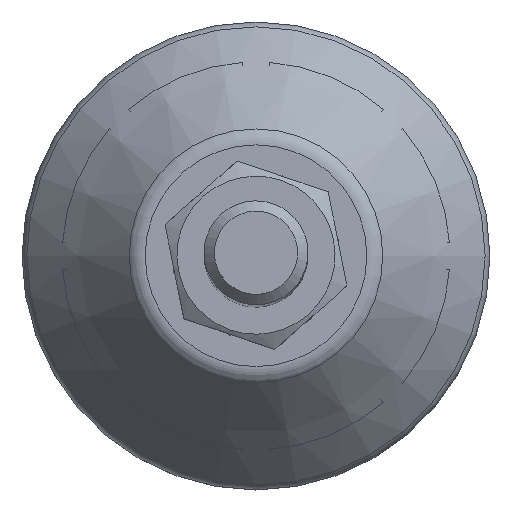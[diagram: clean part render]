
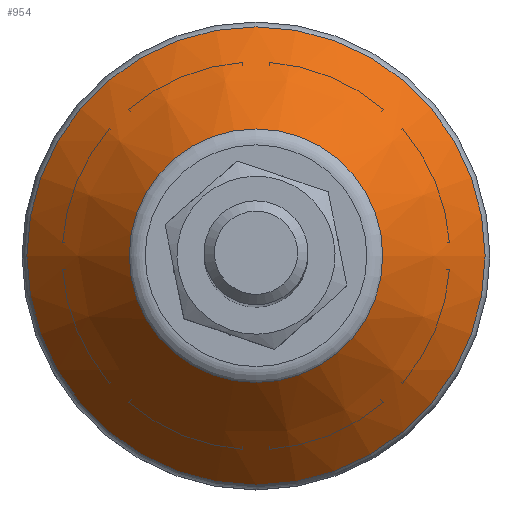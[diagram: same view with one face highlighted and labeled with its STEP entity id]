
A CAD part, top view. The second image highlights one B-rep face of the part: STEP entity #954.
In plain terms, the highlighted conical face has half-angle 40 degrees and reference radius 17.112 mm.
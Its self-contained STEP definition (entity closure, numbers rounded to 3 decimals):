
#954=ADVANCED_FACE('',(#2016,#2018),#2020,.T.);
#2016=FACE_BOUND('',#2017,.T.);
#2017=EDGE_LOOP('',(#2903,#2904));
#2018=FACE_BOUND('',#2019,.T.);
#2019=EDGE_LOOP('',(#2905,#2906));
#2020=CONICAL_SURFACE('',#2021,17.112,0.698);
#2021=AXIS2_PLACEMENT_3D('',#2022,#2023,#2024);
#2022=CARTESIAN_POINT('',(0.,0.,11.422));
#2023=DIRECTION('',(0.,0.,-1.));
#2024=DIRECTION('',(1.,0.,0.));
#2903=ORIENTED_EDGE('',*,*,#3371,.T.);
#2904=ORIENTED_EDGE('',*,*,#3370,.T.);
#2905=ORIENTED_EDGE('',*,*,#3374,.F.);
#2906=ORIENTED_EDGE('',*,*,#3375,.F.);
#3370=EDGE_CURVE('',#3887,#3888,#3889,.T.);
#3371=EDGE_CURVE('',#3888,#3887,#3890,.T.);
#3374=EDGE_CURVE('',#3895,#3896,#3897,.T.);
#3375=EDGE_CURVE('',#3896,#3895,#3898,.T.);
#3887=VERTEX_POINT('',#6296);
#3888=VERTEX_POINT('',#6297);
#3889=CIRCLE('',#6298,22.032);
#3890=CIRCLE('',#6302,22.032);
#3895=VERTEX_POINT('',#6316);
#3896=VERTEX_POINT('',#6317);
#3897=CIRCLE('',#6318,12.191);
#3898=CIRCLE('',#6322,12.191);
#6296=CARTESIAN_POINT('',(-22.032,0.,5.558));
#6297=CARTESIAN_POINT('',(22.032,0.,5.558));
#6298=AXIS2_PLACEMENT_3D('',#6299,#6300,#6301);
#6299=CARTESIAN_POINT('',(0.,0.,5.558));
#6300=DIRECTION('',(0.,0.,1.));
#6301=DIRECTION('',(-1.,0.,0.));
#6302=AXIS2_PLACEMENT_3D('',#6303,#6304,#6305);
#6303=CARTESIAN_POINT('',(0.,0.,5.558));
#6304=DIRECTION('',(0.,0.,1.));
#6305=DIRECTION('',(1.,0.,0.));
#6316=CARTESIAN_POINT('',(-12.191,0.,17.286));
#6317=CARTESIAN_POINT('',(12.191,0.,17.286));
#6318=AXIS2_PLACEMENT_3D('',#6319,#6320,#6321);
#6319=CARTESIAN_POINT('',(0.,0.,17.286));
#6320=DIRECTION('',(0.,0.,1.));
#6321=DIRECTION('',(-1.,0.,0.));
#6322=AXIS2_PLACEMENT_3D('',#6323,#6324,#6325);
#6323=CARTESIAN_POINT('',(0.,0.,17.286));
#6324=DIRECTION('',(0.,0.,1.));
#6325=DIRECTION('',(1.,0.,0.));
